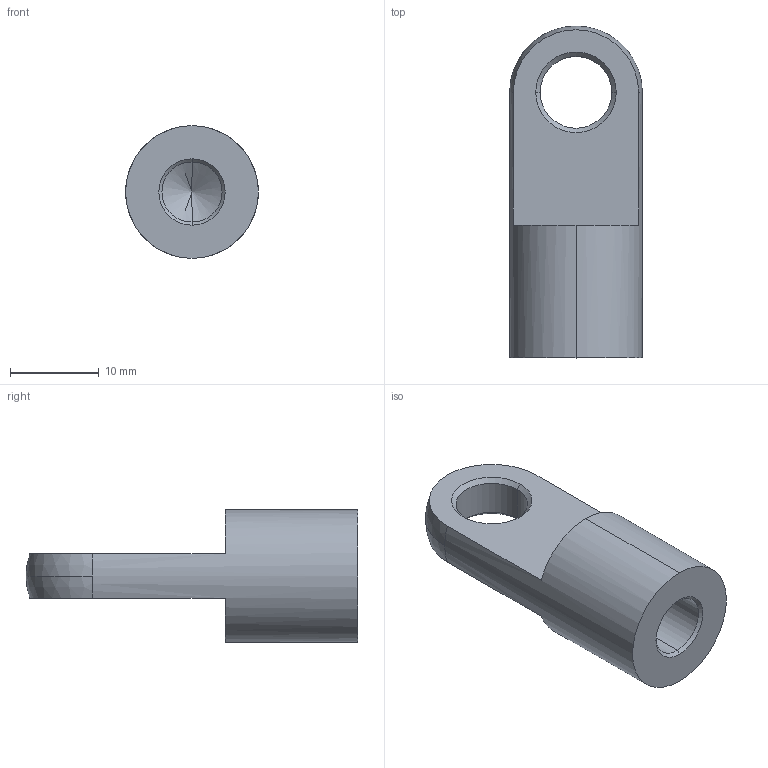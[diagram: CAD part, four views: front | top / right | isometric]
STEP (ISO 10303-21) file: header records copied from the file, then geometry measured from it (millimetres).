
FILE_DESCRIPTION (( 'STEP AP214' ), '1' );
FILE_NAME ('18.08E2STL30.STEP', '2017-11-14T10:09:55', ( '' ), ( '' ), 'SwSTEP 2.0', 'SolidWorks 2016', '' );
FILE_SCHEMA (( 'AUTOMOTIVE_DESIGN' ));
Length unit declared in the file: millimetre
Products named in the file (1): 18.08E2STL30
Bounding box: 15 x 37.5 x 15 mm (x, y, z)
Volume: 3453.8 mm3; surface area: 2106.9 mm2
Topology: 1 solids, 1 shells, 21 faces, 50 edges, 30 vertices
Faces by surface type: cone 8, cylinder 6, plane 5, sphere 2
Entity records: 640 total; most frequent: DIRECTION 120, CARTESIAN_POINT 100, ORIENTED_EDGE 96, AXIS2_PLACEMENT_3D 50, EDGE_CURVE 48, VERTEX_POINT 30, CIRCLE 28, EDGE_LOOP 24
